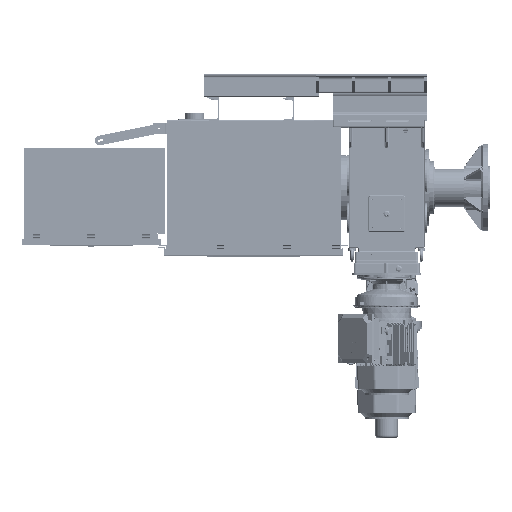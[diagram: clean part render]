
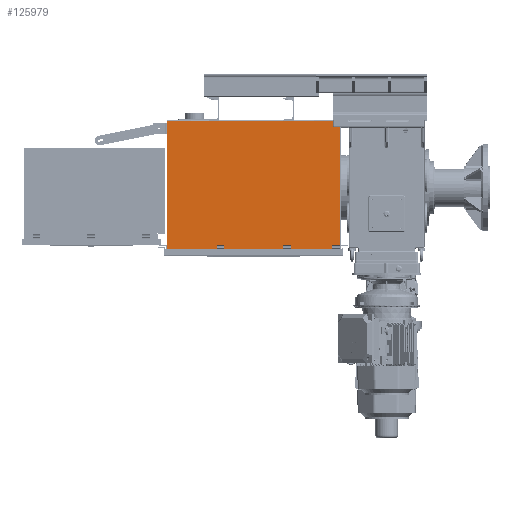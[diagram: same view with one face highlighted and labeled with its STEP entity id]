
A CAD part, top view. The second image highlights one B-rep face of the part: STEP entity #125979.
In plain terms, the highlighted planar face has unit normal (0, 0, 1).
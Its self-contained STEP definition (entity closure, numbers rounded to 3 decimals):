
#5090=LINE('',#184180,#14353);
#5107=LINE('',#184225,#14370);
#5109=LINE('',#184229,#14372);
#5110=LINE('',#184231,#14373);
#5111=LINE('',#184240,#14374);
#5128=LINE('',#184285,#14391);
#5130=LINE('',#184289,#14393);
#5131=LINE('',#184291,#14394);
#5132=LINE('',#184300,#14395);
#5149=LINE('',#184345,#14412);
#5151=LINE('',#184349,#14414);
#5152=LINE('',#184351,#14415);
#5458=LINE('',#185333,#14721);
#5526=LINE('',#185561,#14789);
#5529=LINE('',#185567,#14792);
#5532=LINE('',#185574,#14795);
#5535=LINE('',#185578,#14798);
#5541=LINE('',#185590,#14804);
#5543=LINE('',#185594,#14806);
#5545=LINE('',#185597,#14808);
#5546=LINE('',#185600,#14809);
#5547=LINE('',#185601,#14810);
#5548=LINE('',#185603,#14811);
#5549=LINE('',#185604,#14812);
#14353=VECTOR('',#147819,40.);
#14370=VECTOR('',#147862,40.);
#14372=VECTOR('',#147866,40.);
#14373=VECTOR('',#147869,40.);
#14374=VECTOR('',#147878,40.);
#14391=VECTOR('',#147921,40.);
#14393=VECTOR('',#147925,40.);
#14394=VECTOR('',#147928,40.);
#14395=VECTOR('',#147937,40.);
#14412=VECTOR('',#147980,40.);
#14414=VECTOR('',#147984,40.);
#14415=VECTOR('',#147987,40.);
#14721=VECTOR('',#148939,915.);
#14789=VECTOR('',#149149,865.);
#14792=VECTOR('',#149154,0.992);
#14795=VECTOR('',#149159,2.976);
#14798=VECTOR('',#149164,1.984);
#14804=VECTOR('',#149174,2.976);
#14806=VECTOR('',#149178,0.992);
#14808=VECTOR('',#149182,1.984);
#14809=VECTOR('',#149185,23.016);
#14810=VECTOR('',#149186,699.016);
#14811=VECTOR('',#149187,699.016);
#14812=VECTOR('',#149188,23.016);
#23445=PLANE('',#133852);
#26716=FACE_BOUND('',#36246,.T.);
#26717=FACE_BOUND('',#36247,.T.);
#26718=FACE_BOUND('',#36248,.T.);
#28563=FACE_OUTER_BOUND('',#36245,.T.);
#36245=EDGE_LOOP('',(#82769,#82770,#82771,#82772,#82773,#82774,#82775,#82776,
#82777,#82778,#82779,#82780));
#36246=EDGE_LOOP('',(#82781,#82782,#82783,#82784));
#36247=EDGE_LOOP('',(#82785,#82786,#82787,#82788));
#36248=EDGE_LOOP('',(#82789,#82790,#82791,#82792));
#51248=VERTEX_POINT('',#184178);
#51249=VERTEX_POINT('',#184179);
#51264=VERTEX_POINT('',#184223);
#51265=VERTEX_POINT('',#184227);
#51268=VERTEX_POINT('',#184238);
#51269=VERTEX_POINT('',#184239);
#51284=VERTEX_POINT('',#184283);
#51285=VERTEX_POINT('',#184287);
#51288=VERTEX_POINT('',#184298);
#51289=VERTEX_POINT('',#184299);
#51304=VERTEX_POINT('',#184343);
#51305=VERTEX_POINT('',#184347);
#51522=VERTEX_POINT('',#185001);
#51621=VERTEX_POINT('',#185278);
#51690=VERTEX_POINT('',#185553);
#51691=VERTEX_POINT('',#185557);
#51693=VERTEX_POINT('',#185565);
#51695=VERTEX_POINT('',#185571);
#51696=VERTEX_POINT('',#185573);
#51699=VERTEX_POINT('',#185587);
#51700=VERTEX_POINT('',#185589);
#51701=VERTEX_POINT('',#185593);
#51702=VERTEX_POINT('',#185599);
#51703=VERTEX_POINT('',#185602);
#63015=EDGE_CURVE('',#51248,#51249,#5090,.T.);
#63038=EDGE_CURVE('',#51249,#51264,#5107,.T.);
#63040=EDGE_CURVE('',#51265,#51248,#5109,.T.);
#63041=EDGE_CURVE('',#51264,#51265,#5110,.T.);
#63044=EDGE_CURVE('',#51268,#51269,#5111,.T.);
#63067=EDGE_CURVE('',#51269,#51284,#5128,.T.);
#63069=EDGE_CURVE('',#51285,#51268,#5130,.T.);
#63070=EDGE_CURVE('',#51284,#51285,#5131,.T.);
#63073=EDGE_CURVE('',#51288,#51289,#5132,.T.);
#63096=EDGE_CURVE('',#51289,#51304,#5149,.T.);
#63098=EDGE_CURVE('',#51305,#51288,#5151,.T.);
#63099=EDGE_CURVE('',#51304,#51305,#5152,.T.);
#63559=EDGE_CURVE('',#51621,#51522,#5458,.T.);
#63655=EDGE_CURVE('',#51690,#51691,#5526,.T.);
#63658=EDGE_CURVE('',#51691,#51693,#5529,.T.);
#63661=EDGE_CURVE('',#51696,#51695,#5532,.T.);
#63664=EDGE_CURVE('',#51693,#51696,#5535,.T.);
#63670=EDGE_CURVE('',#51700,#51699,#5541,.T.);
#63672=EDGE_CURVE('',#51701,#51690,#5543,.T.);
#63674=EDGE_CURVE('',#51699,#51701,#5545,.T.);
#63675=EDGE_CURVE('',#51702,#51695,#5546,.T.);
#63676=EDGE_CURVE('',#51621,#51702,#5547,.T.);
#63677=EDGE_CURVE('',#51703,#51522,#5548,.T.);
#63678=EDGE_CURVE('',#51700,#51703,#5549,.T.);
#82769=ORIENTED_EDGE('',*,*,#63661,.T.);
#82770=ORIENTED_EDGE('',*,*,#63675,.F.);
#82771=ORIENTED_EDGE('',*,*,#63676,.F.);
#82772=ORIENTED_EDGE('',*,*,#63559,.T.);
#82773=ORIENTED_EDGE('',*,*,#63677,.F.);
#82774=ORIENTED_EDGE('',*,*,#63678,.F.);
#82775=ORIENTED_EDGE('',*,*,#63670,.T.);
#82776=ORIENTED_EDGE('',*,*,#63674,.T.);
#82777=ORIENTED_EDGE('',*,*,#63672,.T.);
#82778=ORIENTED_EDGE('',*,*,#63655,.T.);
#82779=ORIENTED_EDGE('',*,*,#63658,.T.);
#82780=ORIENTED_EDGE('',*,*,#63664,.T.);
#82781=ORIENTED_EDGE('',*,*,#63015,.T.);
#82782=ORIENTED_EDGE('',*,*,#63038,.T.);
#82783=ORIENTED_EDGE('',*,*,#63041,.T.);
#82784=ORIENTED_EDGE('',*,*,#63040,.T.);
#82785=ORIENTED_EDGE('',*,*,#63044,.T.);
#82786=ORIENTED_EDGE('',*,*,#63067,.T.);
#82787=ORIENTED_EDGE('',*,*,#63070,.T.);
#82788=ORIENTED_EDGE('',*,*,#63069,.T.);
#82789=ORIENTED_EDGE('',*,*,#63073,.T.);
#82790=ORIENTED_EDGE('',*,*,#63096,.T.);
#82791=ORIENTED_EDGE('',*,*,#63099,.T.);
#82792=ORIENTED_EDGE('',*,*,#63098,.T.);
#125979=ADVANCED_FACE('',(#28563,#26716,#26717,#26718),#23445,.F.);
#133852=AXIS2_PLACEMENT_3D('',#185598,#149183,#149184);
#147819=DIRECTION('',(0.,1.,0.));
#147862=DIRECTION('',(1.,0.,0.));
#147866=DIRECTION('',(-1.,0.,0.));
#147869=DIRECTION('',(0.,-1.,0.));
#147878=DIRECTION('',(0.,1.,0.));
#147921=DIRECTION('',(1.,0.,0.));
#147925=DIRECTION('',(-1.,0.,0.));
#147928=DIRECTION('',(0.,-1.,0.));
#147937=DIRECTION('',(0.,1.,0.));
#147980=DIRECTION('',(1.,0.,0.));
#147984=DIRECTION('',(-1.,0.,0.));
#147987=DIRECTION('',(0.,-1.,0.));
#148939=DIRECTION('',(-1.,0.,0.));
#149149=DIRECTION('',(1.,0.,0.));
#149154=DIRECTION('',(0.,1.,0.));
#149159=DIRECTION('',(0.,-1.,0.));
#149164=DIRECTION('',(1.,0.,0.));
#149174=DIRECTION('',(0.,1.,0.));
#149178=DIRECTION('',(0.,-1.,0.));
#149182=DIRECTION('',(1.,0.,0.));
#149183=DIRECTION('center_axis',(0.,0.,
-1.));
#149184=DIRECTION('ref_axis',(1.,0.,0.));
#149185=DIRECTION('',(-1.,0.,0.));
#149186=DIRECTION('',(0.,-1.,0.));
#149187=DIRECTION('',(0.,1.,0.));
#149188=DIRECTION('',(-1.,0.,0.));
#184178=CARTESIAN_POINT('',(-499.182,-551.817,774.738));
#184179=CARTESIAN_POINT('',(-499.182,-511.817,774.738));
#184180=CARTESIAN_POINT('',(-499.182,-364.737,774.738));
#184223=CARTESIAN_POINT('',(-459.182,-511.817,774.738));
#184225=CARTESIAN_POINT('',(-696.682,-511.817,774.738));
#184227=CARTESIAN_POINT('',(-459.182,-551.817,774.738));
#184229=CARTESIAN_POINT('',(-696.682,-551.817,774.738));
#184231=CARTESIAN_POINT('',(-459.182,-364.737,774.738));
#184238=CARTESIAN_POINT('',(-1109.182,-551.817,774.738));
#184239=CARTESIAN_POINT('',(-1109.182,-511.817,774.738));
#184240=CARTESIAN_POINT('',(-1109.182,-364.737,774.738));
#184283=CARTESIAN_POINT('',(-1069.182,-511.817,774.738));
#184285=CARTESIAN_POINT('',(-1001.682,-511.817,774.738));
#184287=CARTESIAN_POINT('',(-1069.182,-551.817,774.738));
#184289=CARTESIAN_POINT('',(-1001.682,-551.817,774.738));
#184291=CARTESIAN_POINT('',(-1069.182,-364.737,774.738));
#184298=CARTESIAN_POINT('',(-759.182,-551.817,774.738));
#184299=CARTESIAN_POINT('',(-759.182,-511.817,774.738));
#184300=CARTESIAN_POINT('',(-759.182,-364.737,774.738));
#184343=CARTESIAN_POINT('',(-719.182,-511.817,774.738));
#184345=CARTESIAN_POINT('',(-826.682,-511.817,774.738));
#184347=CARTESIAN_POINT('',(-719.182,-551.817,774.738));
#184349=CARTESIAN_POINT('',(-826.682,-551.817,774.738));
#184351=CARTESIAN_POINT('',(-719.182,-364.737,774.738));
#185001=CARTESIAN_POINT('',(-1371.682,141.483,774.738));
#185278=CARTESIAN_POINT('',(-456.682,141.483,774.738));
#185333=CARTESIAN_POINT('',(-914.182,141.483,774.738));
#185553=CARTESIAN_POINT('',(-1346.682,-555.55,774.738));
#185557=CARTESIAN_POINT('',(-481.682,-555.55,774.738));
#185561=CARTESIAN_POINT('',(-697.932,-555.55,774.738));
#185565=CARTESIAN_POINT('',(-481.682,-554.558,774.738));
#185567=CARTESIAN_POINT('',(-481.682,-380.17,774.738));
#185571=CARTESIAN_POINT('',(-479.698,-557.534,774.738));
#185573=CARTESIAN_POINT('',(-479.698,-554.558,774.738));
#185574=CARTESIAN_POINT('',(-479.698,-381.658,774.738));
#185578=CARTESIAN_POINT('',(-696.94,-554.558,774.738));
#185587=CARTESIAN_POINT('',(-1348.666,-554.558,774.738));
#185589=CARTESIAN_POINT('',(-1348.666,-557.534,774.738));
#185590=CARTESIAN_POINT('',(-1348.666,-380.17,774.738));
#185593=CARTESIAN_POINT('',(-1346.682,-554.558,774.738));
#185594=CARTESIAN_POINT('',(-1346.682,-381.658,774.738));
#185597=CARTESIAN_POINT('',(-1130.432,-554.558,774.738));
#185598=CARTESIAN_POINT('Origin',(-914.182,-205.782,774.738));
#185599=CARTESIAN_POINT('',(-456.682,-557.534,774.738));
#185600=CARTESIAN_POINT('',(-456.682,-557.534,774.738));
#185601=CARTESIAN_POINT('',(-456.682,141.483,774.738));
#185602=CARTESIAN_POINT('',(-1371.682,-557.534,774.738));
#185603=CARTESIAN_POINT('',(-1371.682,150.457,774.738));
#185604=CARTESIAN_POINT('',(-456.682,-557.534,774.738));
